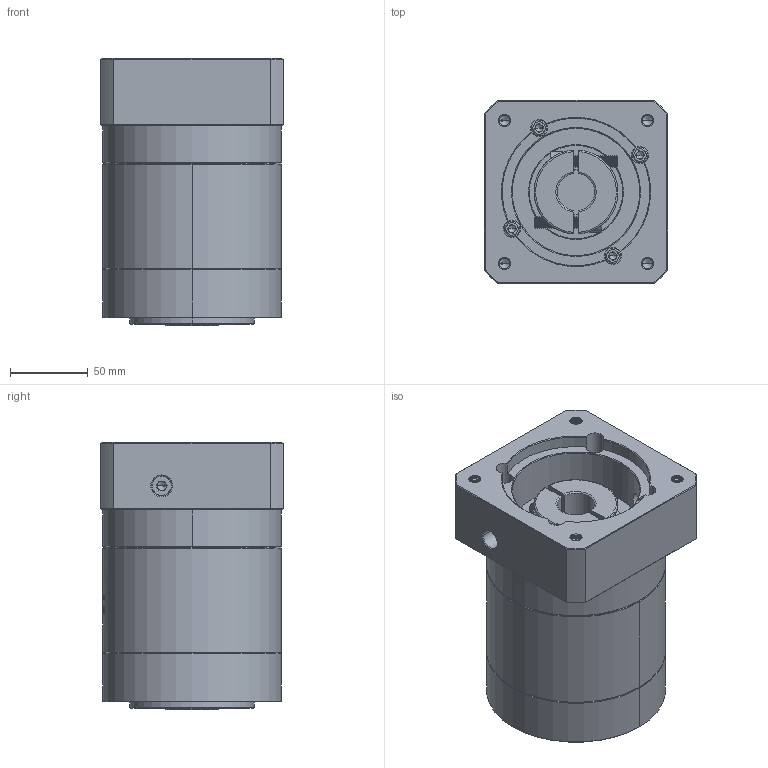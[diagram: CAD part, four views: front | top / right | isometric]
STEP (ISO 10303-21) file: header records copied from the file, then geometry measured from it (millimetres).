
FILE_DESCRIPTION (( 'STEP AP214' ), '1' );
FILE_NAME ('ZE120A-K25-L2-24-95-130-M8.step', '2023-03-09T06:34:04', ( '' ), ( '' ), 'SwSTEP 2.0', 'SolidWorks 2016', '' );
FILE_SCHEMA (( 'AUTOMOTIVE_DESIGN' ));
Length unit declared in the file: millimetre
Products named in the file (1): ZE120A-K25-L2-24-95-130-M8
Bounding box: 118 x 118 x 172 mm (x, y, z)
Volume: 1652454.7 mm3; surface area: 168582 mm2
Topology: 6 solids, 6 shells, 1978 faces, 5225 edges, 3340 vertices
Faces by surface type: plane 829, cylinder 490, bspline 324, cone 315, torus 20
Entity records: 113204 total; most frequent: CARTESIAN_POINT 46839, ORIENTED_EDGE 10378, DIRECTION 7843, EDGE_CURVE 5189, VERTEX_POINT 3340, LINE 2749, VECTOR 2749, AXIS2_PLACEMENT_3D 2547
